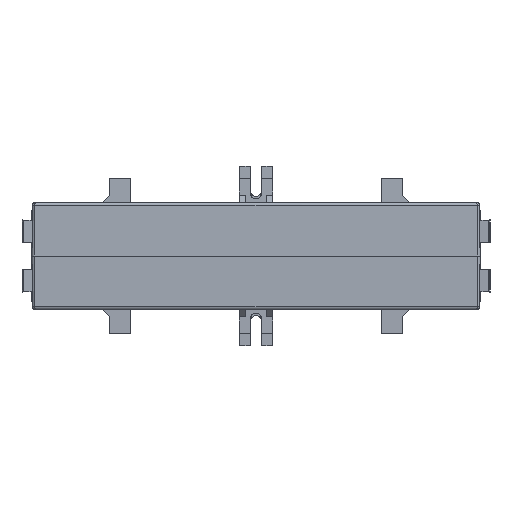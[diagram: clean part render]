
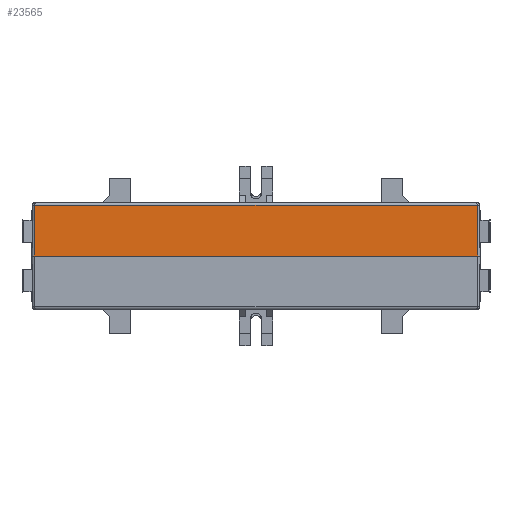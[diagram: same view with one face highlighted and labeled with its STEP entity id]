
A CAD part, front view. The second image highlights one B-rep face of the part: STEP entity #23565.
In plain terms, the highlighted planar face has unit normal (0, -1, 0.009).
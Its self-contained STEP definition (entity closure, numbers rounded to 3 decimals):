
#525=PLANE('',#24935);
#1577=FACE_OUTER_BOUND('',#2849,.T.);
#2849=EDGE_LOOP('',(#17453,#17454,#17455,#17456));
#4390=LINE('',#34119,#7380);
#4520=LINE('',#34473,#7510);
#4574=LINE('',#34579,#7564);
#4575=LINE('',#34581,#7565);
#7380=VECTOR('',#27394,1.);
#7510=VECTOR('',#27640,1.);
#7564=VECTOR('',#27744,1.);
#7565=VECTOR('',#27747,1.);
#10647=VERTEX_POINT('',#33958);
#10651=VERTEX_POINT('',#34116);
#10743=VERTEX_POINT('',#34437);
#10747=VERTEX_POINT('',#34471);
#13152=EDGE_CURVE('',#10651,#10647,#4390,.T.);
#13293=EDGE_CURVE('',#10747,#10743,#4520,.T.);
#13350=EDGE_CURVE('',#10743,#10647,#4574,.T.);
#13351=EDGE_CURVE('',#10747,#10651,#4575,.T.);
#17453=ORIENTED_EDGE('',*,*,#13350,.F.);
#17454=ORIENTED_EDGE('',*,*,#13293,.F.);
#17455=ORIENTED_EDGE('',*,*,#13351,.T.);
#17456=ORIENTED_EDGE('',*,*,#13152,.T.);
#23565=ADVANCED_FACE('',(#1577),#525,.F.);
#24935=AXIS2_PLACEMENT_3D('',#34580,#27745,#27746);
#27394=DIRECTION('',(-0.009,0.009,1.));
#27640=DIRECTION('',(0.009,0.009,1.));
#27744=DIRECTION('',(1.,0.,0.));
#27745=DIRECTION('center_axis',(0.,1.,
-0.009));
#27746=DIRECTION('ref_axis',(0.,0.009,
1.));
#27747=DIRECTION('',(1.,0.,0.));
#33958=CARTESIAN_POINT('',(674.196,-127.828,17.009));
#34116=CARTESIAN_POINT('',(674.344,-127.976,0.));
#34119=CARTESIAN_POINT('',(674.344,-127.976,0.));
#34437=CARTESIAN_POINT('',(525.804,-127.828,17.009));
#34471=CARTESIAN_POINT('',(525.656,-127.976,0.));
#34473=CARTESIAN_POINT('',(525.656,-127.976,0.));
#34579=CARTESIAN_POINT('',(525.656,-127.828,17.009));
#34580=CARTESIAN_POINT('Origin',(525.656,-127.976,0.));
#34581=CARTESIAN_POINT('',(525.656,-127.976,0.));
